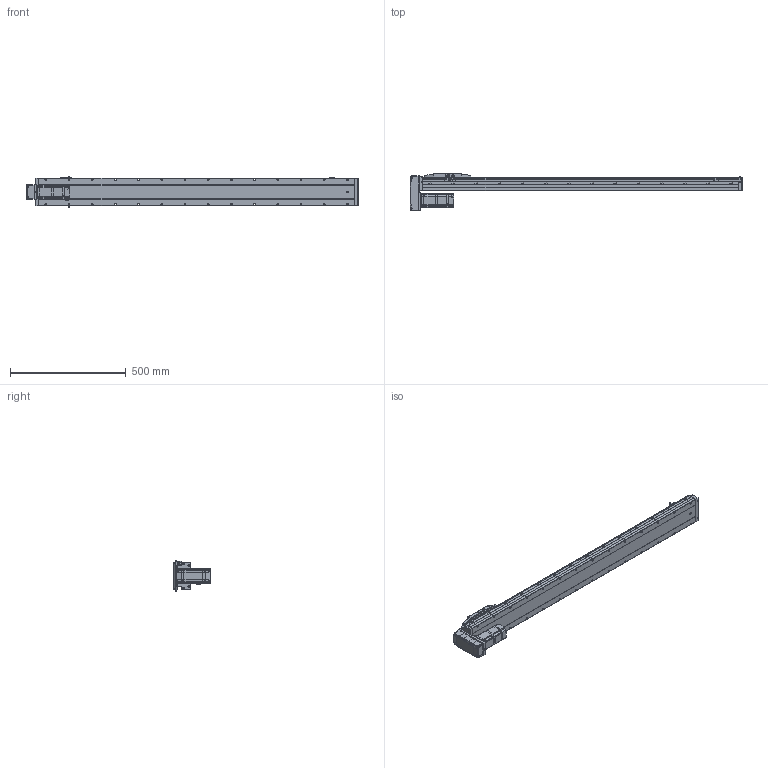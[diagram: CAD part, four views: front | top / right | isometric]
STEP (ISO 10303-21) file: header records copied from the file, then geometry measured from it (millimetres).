
FILE_DESCRIPTION (( 'STEP AP214' ), '1' );
FILE_NAME ('CTH12-L10-S1150-BM-C40（简）.STEP', '2023-02-04T06:40:12', ( '' ), ( '' ), 'SwSTEP 2.0', 'SolidWorks 2018', '' );
FILE_SCHEMA (( 'AUTOMOTIVE_DESIGN' ));
Length unit declared in the file: millimetre
Products named in the file (25): 内六角圆柱头螺钉M5装饰螺钉; CTH12_body_3; 蚐郲; 内六角圆柱头螺钉M3-2; CTH12底座-L1361简（1150行程）; CTH8耜蚾蟀諉啣ㄗ潠ㄘ; hex nuts, style 1-grades ab gb_GB_FASTENER_NUT_SNAB1 M3-N; CTH12-BL_body_4; PM-Y45; CTH400W垫板（3个厚）; CTH12; AC60_Valor predeterminado; CTH400W假蚾啣; 内六角圆柱头螺钉M3-1; CTH12-BM-02; BM-C40; 内六角圆柱头螺钉M3; CTH嫖萇羲壽假蚾啣; CTH12-L10-S1150-BM-C40（简）; 嫖萇羲壽郪磁1; CTH12賑怢ㄗ潠ㄘ; CTH12賑怢郪磁; CTH12覜茼え; 湮賑怢  裔赽-1(CTH12)賑怢; 嫖萇羲壽郪磁2
Assembly tree (45 placements, depth 4):
  CTH12-L10-S1150-BM-C40（简）
    CTH12底座-L1361简（1150行程）
    蚐郲  x2
    CTH12_body_3
    CTH12-BL_body_4
    CTH12賑怢郪磁
      CTH12
        湮賑怢  裔赽-1(CTH12)賑怢
        CTH12賑怢ㄗ潠ㄘ
    CTH12覜茼え
    嫖萇羲壽郪磁1  x2
      CTH嫖萇羲壽假蚾啣
      PM-Y45
      内六角圆柱头螺钉M3-2
      内六角圆柱头螺钉M3-1
      hex nuts, style 1-grades ab gb_GB_FASTENER_NUT_SNAB1 M3-N
    嫖萇羲壽郪磁2
      CTH嫖萇羲壽假蚾啣
      PM-Y45
      内六角圆柱头螺钉M3-1  x2
      内六角圆柱头螺钉M3-2  x2
      hex nuts, style 1-grades ab gb_GB_FASTENER_NUT_SNAB1 M3-N  x2
    BM-C40
      CTH12-BM-02
      CTH8耜蚾蟀諉啣ㄗ潠ㄘ
    CTH400W垫板（3个厚）
    AC60_Valor predeterminado
    内六角圆柱头螺钉M3  x6
    内六角圆柱头螺钉M5装饰螺钉  x4
    CTH400W假蚾啣
Bounding box: 1431.5 x 162.5 x 131.52 mm (x, y, z)
Volume: 9526635.1 mm3; surface area: 822785.4 mm2
Topology: 47 solids, 48 shells, 2991 faces, 7589 edges, 4817 vertices
Faces by surface type: plane 1582, cylinder 874, cone 363, bspline 120, torus 52
Entity records: 84009 total; most frequent: CARTESIAN_POINT 20453, ORIENTED_EDGE 12358, DIRECTION 12280, EDGE_CURVE 6179, AXIS2_PLACEMENT_3D 4195, VERTEX_POINT 3921, VECTOR 3890, LINE 3890
